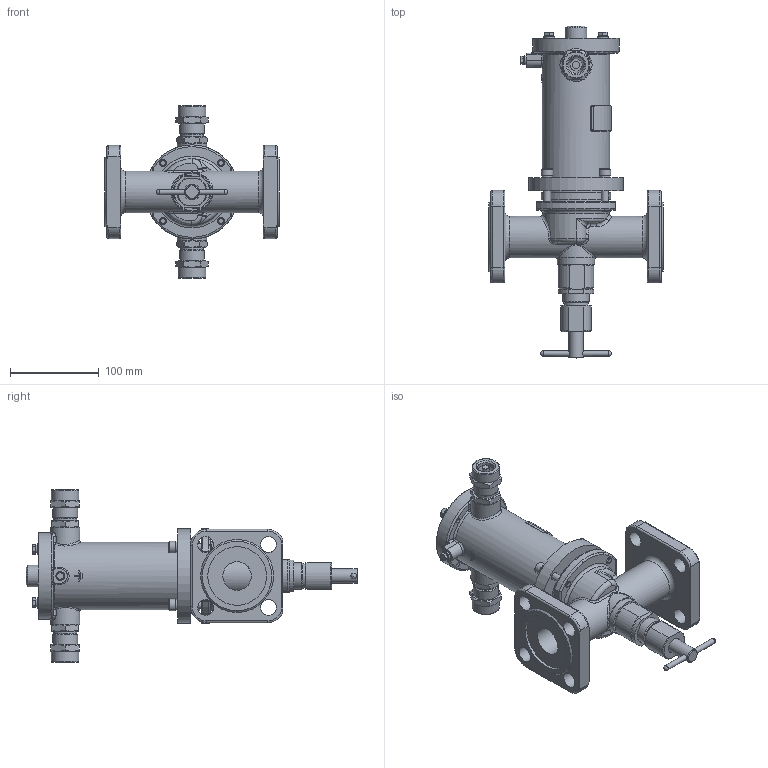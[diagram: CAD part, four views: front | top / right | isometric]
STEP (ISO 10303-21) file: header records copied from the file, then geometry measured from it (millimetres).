
FILE_DESCRIPTION(('STEP AP203'), '1');
FILE_NAME('ÑÅÍÑ-ÏÔ DN32PN25-ÑÂ.stp', '2018-10-09T08:09:21', ('Îðëîâ Å.Â.'), ('ÎÎÎ ÍÏÏ Ñåíñîð'), 'ASCON STEP Converter 1.3', 'Kompas 3D', '');
FILE_SCHEMA(('CONFIG_CONTROL_DESIGN','SUPPORT_RESOURCE_SCHEMA'));
Length unit declared in the file: millimetre
Products named in the file (1): 65
Bounding box: 196 x 373.5 x 194 mm (x, y, z)
Volume: 1095553 mm3; surface area: 302279.2 mm2
Topology: 3 solids, 16 shells, 1974 faces, 5230 edges, 3390 vertices
Faces by surface type: cylinder 1004, plane 723, cone 127, torus 52, bspline 50, extrusion 16, sphere 2
Full cylindrical faces by diameter (mm): 3.3 x1, 3.5 x2, 4.134 x1, 4.917 x4, 5 x1, 6 x13, 6.2 x1, 6.5 x4, 8 x8, 9 x4, 10 x1, 12 x4, 13 x6, 16 x3, 17 x2, 18 x9, 18.632 x2, 19.9 x1, 20 x2, 21 x1, 22 x2, 22.376 x2, 23 x1, 23.5 x2, 24 x3, 24.5 x2, 26 x4, 26.376 x2, 27.8 x1, 28 x3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
Entity records: 75938 total; most frequent: CARTESIAN_POINT 25968, DIRECTION 10811, ORIENTED_EDGE 10386, EDGE_CURVE 5193, AXIS2_PLACEMENT_3D 4154, VERTEX_POINT 3382, VECTOR 2503, LINE 2487
